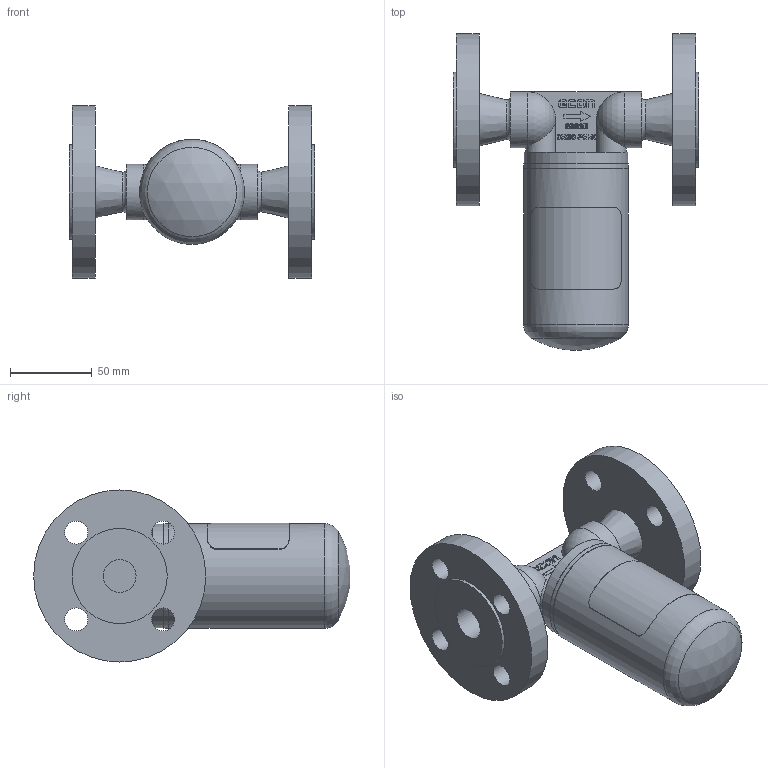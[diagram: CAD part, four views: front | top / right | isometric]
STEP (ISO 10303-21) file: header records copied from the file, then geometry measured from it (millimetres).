
FILE_DESCRIPTION(/* description */ (''),/* implementation_level */ '2;1');
FILE_NAME(/* name */ '8963EL-MAX_DP28-DN20-PN40.stp',/* time_stamp */ '2024-07-17T11:39:20+02:00',/* author */ ('roger.thijssen'),/* organization */ (''),/* preprocessor_version */ 'ST-DEVELOPER v20',/* originating_system */ 'Autodesk Inventor 2024',/* authorisation */ '');
FILE_SCHEMA (('AUTOMOTIVE_DESIGN { 1 0 10303 214 3 1 1 }'));
Length unit declared in the file: millimetre
Products named in the file (1): 8963E-DN20-PN40
Bounding box: 150 x 193.18 x 105 mm (x, y, z)
Volume: 356221.9 mm3; surface area: 113889.2 mm2
Topology: 1 solids, 2 shells, 326 faces, 836 edges, 547 vertices
Faces by surface type: plane 171, bspline 96, cylinder 46, sphere 6, torus 4, cone 3
Full cylindrical faces by diameter (mm): 14 x8, 20 x2, 34 x2, 58 x2, 62 x1, 63 x1, 64 x2, 105 x2
Entity records: 10851 total; most frequent: CARTESIAN_POINT 3457, ORIENTED_EDGE 1664, DIRECTION 1187, EDGE_CURVE 832, VERTEX_POINT 547, LINE 519, VECTOR 519, EDGE_LOOP 383
